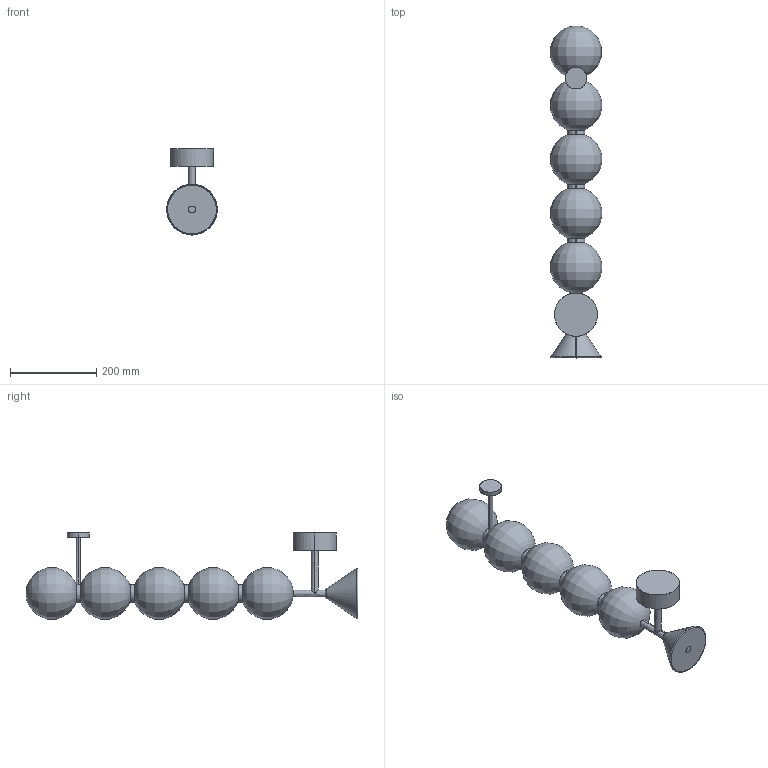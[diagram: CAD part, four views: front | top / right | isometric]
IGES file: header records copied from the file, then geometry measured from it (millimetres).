
Start section: SolidWorks IGES file using analytic representation for surfaces
Global section: file name: C:\Users\Agustin\Desktop\ENERO 2025\2D-3D\2D-3D SOKO 1335\SOKO_A1335_5\SOKO_A1335_5.IGS; native system: SolidWorks 2018; preprocessor: SolidWorks 2018; author: Agustin; date: 250117.151442; units: millimetre
Bounding box: 120 x 768.15 x 199.09 mm (x, y, z)
Surface area: 547537.1 mm2 (no closed solid volume)
Topology: 0 solids, 0 shells, 52 faces, 1233 edges, 1221 vertices
Faces by surface type: revolution 30, bspline 22
